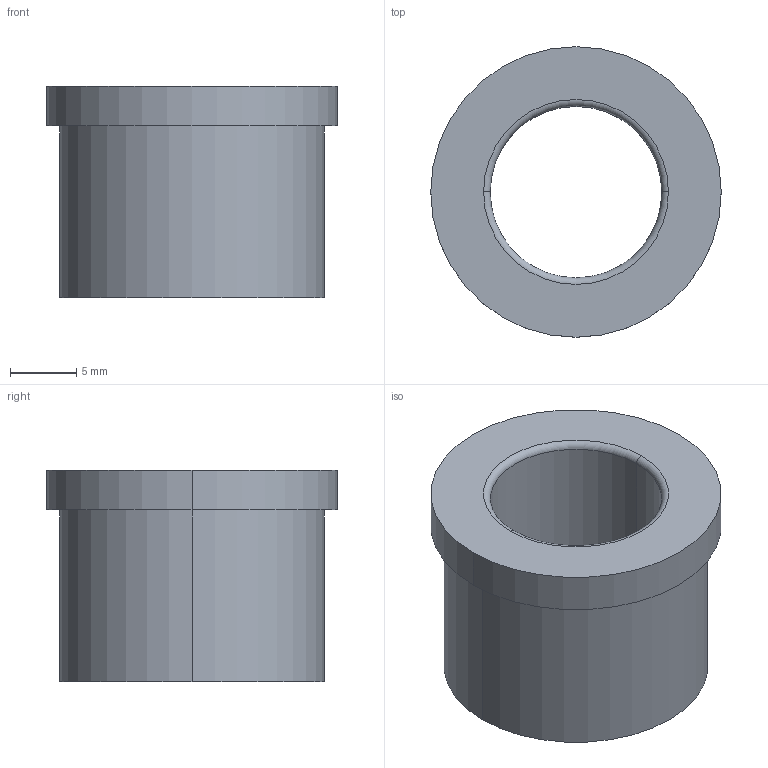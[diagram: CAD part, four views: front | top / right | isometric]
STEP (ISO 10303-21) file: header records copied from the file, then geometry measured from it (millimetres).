
FILE_DESCRIPTION(/* description */ (''),/* implementation_level */ '2;1');
FILE_NAME(/* name */ '3d_sghz13-16_00309_r00.stp',/* time_stamp */ '2011-01-10T14:11:11+09:00',/* author */ ('MISUMI'),/* organization */ (''),/* preprocessor_version */ 'ST-DEVELOPER v11',/* originating_system */ 'UGS - NX 5.0',/* authorisation */ '');
FILE_SCHEMA (('CONFIG_CONTROL_DESIGN'));
Length unit declared in the file: millimetre
Products named in the file (1): 3d_sghz13-16_00309_r00
Bounding box: 22 x 22 x 16 mm (x, y, z)
Volume: 3096.3 mm3; surface area: 2155.1 mm2
Topology: 1 solids, 1 shells, 13 faces, 26 edges, 16 vertices
Faces by surface type: cylinder 6, torus 4, plane 3
Entity records: 438 total; most frequent: DIRECTION 74, CARTESIAN_POINT 56, ORIENTED_EDGE 52, AXIS2_PLACEMENT_3D 34, EDGE_CURVE 26, CIRCLE 20, EDGE_LOOP 16, VERTEX_POINT 16
